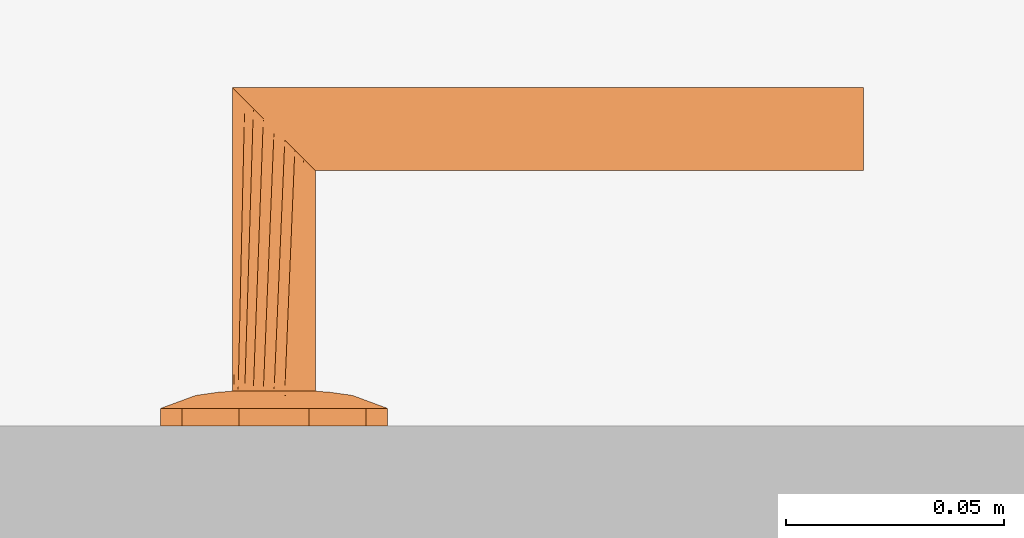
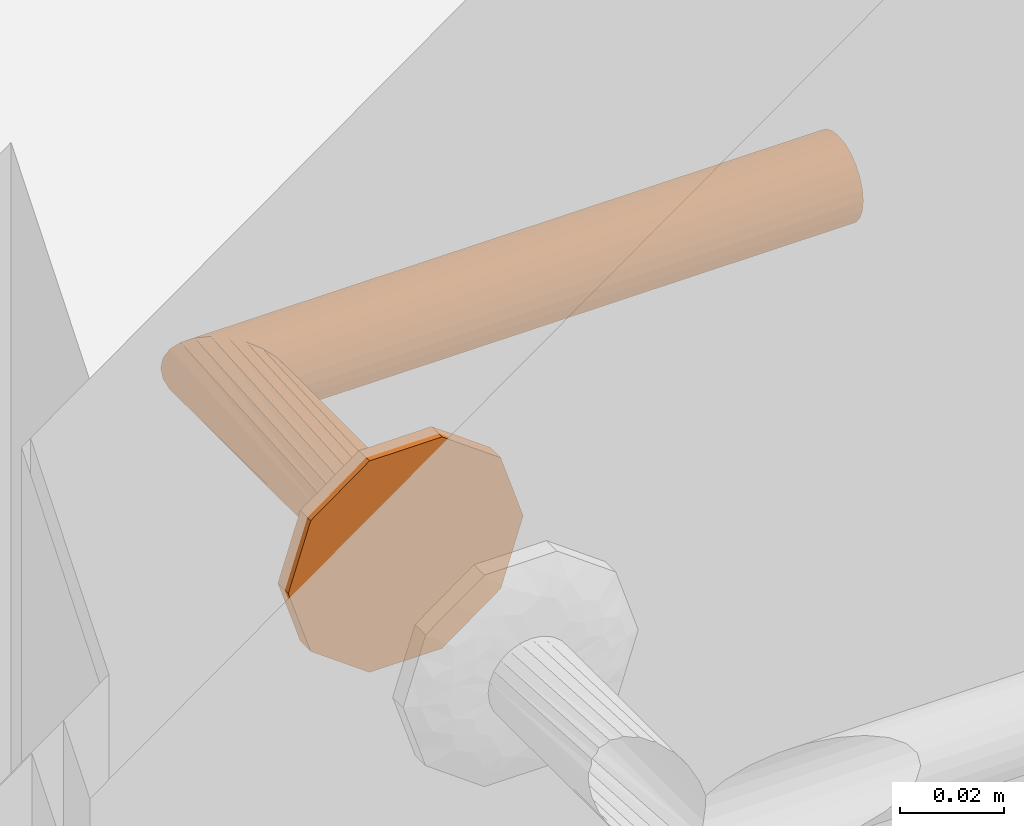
# One storey, part 54 of 55: 1 proxy.
"""IFC2X3 building model written with IfcOpenShell, lengths in millimetres."""

from ifc_helpers import new_model, entity, si_unit, converted_unit, direction, frame, origin, place, context, subcontext, project, spatial, faceted_brep, source, transform, mapped, material, type_object, type_shapes, element, save


model = new_model("IFC2X3")

# Units and contexts
model_context = context("Model", 3, precision=0.01, world=origin(), true_north=direction((6.123233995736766e-17, 1.0)))
plan_context = context("Plan", 3, precision=0.01, world=origin(), true_north=direction((6.123233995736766e-17, 1.0)))
body_context = subcontext(model_context, "Body", "Model", "MODEL_VIEW")
ifc_project = project(units=[si_unit("LENGTHUNIT", "METRE", prefix="MILLI"), converted_unit("PLANEANGLEUNIT", "DEGREE", entity("IfcPlaneAngleMeasure", 0.017453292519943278), si_unit("PLANEANGLEUNIT", "RADIAN"), dimensions=[0, 0, 0, 0, 0, 0, 0]), si_unit("AREAUNIT", "SQUARE_METRE")], contexts=[model_context, plan_context])

# Site, building, storey
site_placement = place(None, origin())
site = spatial("IfcSite", under=ifc_project, at=site_placement, Name="Default", CompositionType="ELEMENT")
building_placement = place(site_placement, origin())
building = spatial("IfcBuilding", under=site, at=building_placement, CompositionType="ELEMENT")
storey_placement = place(building_placement, origin())
storey = spatial("IfcBuildingStorey", under=building, at=storey_placement, Name="1K", CompositionType="ELEMENT", Elevation=0.0)

# Proxy
ifc_material = material(Name="<Unnamed>")
building_element_proxy_type = type_object("IfcBuildingElementProxyType", Name="Door-handle_Lever_ABLOY_INOXI_3-19ss-002_RT:Default", PredefinedType="NOTDEFINED", material=ifc_material)
shared_shape = source(origin(), body_context, "Body", "Brep", [
    faceted_brep([(0.0, 0.0, 0.0), (21.034441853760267, -15.282416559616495, 0.0), (14.534441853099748, -20.00494299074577, 0.0), (8.034441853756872, -24.72746942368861, 0.0), (0.0, -24.72746942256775, 0.0), (23.51722092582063, -7.6412082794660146, 0.0), (26.0, 0.0, 0.0), (-8.034441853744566, -24.727469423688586, 0.0), (-14.534441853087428, -20.00494299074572, 0.0), (-21.03444185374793, -15.282416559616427, 0.0), (-23.517220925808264, -7.641208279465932, 0.0), (-26.0, 0.0, 0.0), (-23.517220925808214, 7.641208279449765, 0.0), (23.517220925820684, 7.641208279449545, 0.0), (21.034441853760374, 15.282416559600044, 0.0), (14.53444185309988, 20.00494299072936, 0.0), (8.034441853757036, 24.72746942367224, 0.0), (-21.034441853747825, 15.282416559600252, 0.0), (-14.53444185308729, 20.004942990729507, 0.0), (-8.0344418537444, 24.72746942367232, 0.0), (0.0, 24.72746942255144, 0.0), (0.0, 0.0, 8.0), (4.7500000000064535, -8.227241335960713, 8.0), (5.937500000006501, -6.170431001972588, 8.0), (7.125000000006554, -4.113620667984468, 8.0), (8.312500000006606, -2.0568103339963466, 8.0), (9.500000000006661, 0.0, 8.0), (8.312500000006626, 2.056810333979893, 8.0), (2.3750000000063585, -8.227241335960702, 8.0), (0.0, -8.227241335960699, 8.0), (-2.3749999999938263, -8.227241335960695, 8.0), (-4.749999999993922, -8.227241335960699, 8.0), (-5.937499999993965, -6.170431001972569, 8.0), (-7.124999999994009, -4.113620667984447, 8.0), (-8.312499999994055, -2.056810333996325, 8.0), (-9.499999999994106, 0.0, 8.0), (7.125000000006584, 4.113620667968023, 8.0), (5.937500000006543, 6.170431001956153, 8.0), (4.750000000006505, 8.227241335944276, 8.0), (2.3750000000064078, 8.22724133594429, 8.0), (-8.31249999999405, 2.0568103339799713, 8.0), (-7.12499999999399, 4.113620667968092, 8.0), (-5.9374999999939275, 6.170431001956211, 8.0), (-4.74999999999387, 8.227241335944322, 8.0), (0.0, 8.227241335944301, 8.0), (-2.374999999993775, 8.227241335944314, 8.0), (-22.488765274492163, -10.806469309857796, 4.030771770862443), (-16.663919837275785, -7.932665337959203, 6.877259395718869), (-20.643071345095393, -6.292822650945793, 5.929480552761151), (-12.50457926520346, -5.179566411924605, 7.774932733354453), (-16.764060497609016, -3.820257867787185, 7.1747985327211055), (-9.071726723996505, -10.311606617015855, 7.7520782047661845), (-11.963426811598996, -8.625290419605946, 7.618343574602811), (-11.979136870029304, -13.678312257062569, 6.945778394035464), (5.7585542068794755, -20.96753300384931, 5.871476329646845), (0.0, -24.72746942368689, 4.030771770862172), (8.03444185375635, -24.727469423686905, 4.030771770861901), (16.66391982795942, -7.932665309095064, 6.877259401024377), (22.488765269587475, -10.806469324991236, 4.03077177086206), (20.64307133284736, -6.29282258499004, 5.929480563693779), (14.534441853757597, -20.004942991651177, 4.030771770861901), (9.499431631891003, -18.64368355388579, 6.154325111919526), (-15.783149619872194, -11.991003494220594, 6.50080018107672), (-21.034441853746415, -15.282416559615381, 4.030771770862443), (-14.53444185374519, -20.00494299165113, 4.030771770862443), (-23.012042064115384, 0.0, 5.135401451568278), (-23.943088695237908, -6.330522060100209, 4.030771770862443), (11.96342678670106, -8.62529049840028, 7.618343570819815), (12.504579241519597, -5.179566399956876, 7.774932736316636), (16.764060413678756, -3.8202578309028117, 7.17479855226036), (15.783149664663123, -11.991003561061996, 6.50080015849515), (17.985351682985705, 0.0, 6.993737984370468), (23.012042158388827, 0.0, 5.135401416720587), (8.661516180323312, -10.478936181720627, 7.768126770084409), (-8.03444185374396, -24.727469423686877, 4.030771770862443), (-3.3573143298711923, -21.197247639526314, 5.971427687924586), (-9.941915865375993, -17.061976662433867, 6.522757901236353), (-5.973257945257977, -16.430139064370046, 7.110979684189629), (-7.711266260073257, -12.760344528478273, 7.594456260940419), (11.979136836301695, -13.678312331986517, 6.945778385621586), (7.511307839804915, -13.358932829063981, 7.529187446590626), (5.953298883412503, -16.50608604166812, 7.096344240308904), (-1.5654593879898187, -15.307443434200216, 7.519134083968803), (-7.784980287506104, -20.476295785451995, 5.812837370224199), (2.8135289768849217, -17.76392260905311, 6.993737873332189), (-17.98535168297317, 0.0, 6.993737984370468), (-26.0, 0.0, 4.030771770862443), (-23.51722092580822, -7.641208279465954, 4.030771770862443), (23.943088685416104, -6.33052209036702, 4.030771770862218), (24.308823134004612, -5.204907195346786, 4.030771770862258), (26.0, 0.0, 4.030771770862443), (21.03444185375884, -15.282416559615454, 4.030771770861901), (22.617646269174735, -10.40981439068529, 4.030771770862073), (22.488765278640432, 10.806469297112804, 4.030771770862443), (16.66391984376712, 7.932665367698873, 6.877259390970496), (20.643071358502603, 6.292822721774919, 5.929480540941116), (12.504579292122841, 5.179566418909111, 7.774932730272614), (16.764060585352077, 3.8202579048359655, 7.174798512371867), (9.07172672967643, 10.31160659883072, 7.752078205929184), (11.963426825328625, 8.62529034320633, 7.618343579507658), (11.979136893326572, 13.67831220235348, 6.9457784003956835), (-5.758554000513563, 20.96753314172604, 5.8714763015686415), (0.0, 24.72746942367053, 4.030771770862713), (-8.03444185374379, 24.72746942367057, 4.030771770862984), (-16.663919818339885, 7.932665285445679, 6.877259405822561), (-22.48876526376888, 10.806469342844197, 4.030771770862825), (-20.643071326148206, 6.2928225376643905, 5.929480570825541), (-14.534441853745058, 20.004942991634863, 4.030771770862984), (-9.499431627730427, 18.643683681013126, 6.154325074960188), (15.783149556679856, 11.991003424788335, 6.5008002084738), (21.03444185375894, 15.282416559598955, 4.030771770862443), (14.534441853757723, 20.004942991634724, 4.030771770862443), (23.943088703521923, 6.330522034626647, 4.030771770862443), (-11.96342675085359, 8.625290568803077, 7.618343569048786), (-12.504579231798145, 5.179566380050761, 7.77493273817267), (-16.764060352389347, 3.820257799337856, 7.174798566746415), (-15.78314967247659, 11.991003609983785, 6.500800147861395), (-8.661516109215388, 10.478936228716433, 7.768126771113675), (8.034441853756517, 24.727469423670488, 4.030771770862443), (3.3573144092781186, 21.197247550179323, 5.971427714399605), (9.941915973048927, 17.061976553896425, 6.522757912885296), (5.9732581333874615, 16.430139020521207, 7.110979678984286), (7.711266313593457, 12.760344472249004, 7.5944562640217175), (-11.979136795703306, 13.678312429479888, 6.945778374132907), (-7.511307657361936, 13.358932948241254, 7.5291874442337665), (-5.9532988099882, 16.50608628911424, 7.096344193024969), (1.5654596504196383, 15.3074431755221, 7.519134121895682), (7.784980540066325, 20.476295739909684, 5.812837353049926), (-2.81352881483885, 17.76392263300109, 6.993737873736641), (23.51722092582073, 7.6412082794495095, 4.030771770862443), (-23.94308867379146, 6.330522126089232, 4.030771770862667), (-24.308823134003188, 5.20490719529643, 4.030771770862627), (-21.034441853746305, 15.282416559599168, 4.030771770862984), (-22.617646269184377, 10.409814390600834, 4.0307717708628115)], [[[0, 1, 2]], [[0, 2, 3]], [[0, 3, 4]], [[0, 5, 1]], [[0, 6, 5]], [[0, 4, 7]], [[0, 7, 8]], [[0, 8, 9]], [[0, 9, 10]], [[0, 10, 11]], [[0, 11, 12]], [[0, 13, 6]], [[0, 14, 13]], [[0, 15, 14]], [[0, 16, 15]], [[0, 12, 17]], [[0, 17, 18]], [[0, 18, 19]], [[0, 19, 20]], [[0, 20, 16]], [[21, 22, 23]], [[21, 23, 24]], [[21, 24, 25]], [[21, 25, 26]], [[21, 26, 27]], [[21, 28, 22]], [[21, 29, 28]], [[21, 30, 29]], [[21, 31, 30]], [[21, 32, 31]], [[21, 33, 32]], [[21, 34, 33]], [[21, 35, 34]], [[21, 27, 36]], [[21, 36, 37]], [[21, 37, 38]], [[21, 38, 39]], [[21, 40, 35]], [[21, 41, 40]], [[21, 42, 41]], [[21, 43, 42]], [[21, 39, 44]], [[21, 44, 45]], [[21, 45, 43]], [[46, 47, 48]], [[47, 49, 50]], [[49, 33, 34]], [[51, 52, 53]], [[49, 52, 33]], [[48, 47, 50]], [[54, 55, 56]], [[57, 58, 59]], [[56, 60, 61]], [[62, 63, 64]], [[65, 66, 48]], [[67, 57, 68]], [[68, 69, 25]], [[57, 67, 70]], [[69, 26, 25]], [[62, 53, 52]], [[71, 69, 72]], [[67, 23, 73]], [[74, 55, 75]], [[76, 77, 78]], [[79, 60, 70]], [[69, 59, 72]], [[80, 81, 61]], [[77, 30, 78]], [[82, 30, 77]], [[28, 80, 22]], [[77, 83, 75]], [[75, 82, 77]], [[55, 84, 75]], [[85, 50, 35]], [[24, 68, 25]], [[82, 84, 29]], [[84, 82, 75]], [[31, 78, 30]], [[82, 29, 30]], [[34, 35, 50]], [[52, 49, 47]], [[62, 52, 47]], [[34, 50, 49]], [[53, 78, 51]], [[32, 33, 52]], [[85, 65, 50]], [[66, 65, 86]], [[67, 68, 24]], [[77, 76, 83]], [[65, 48, 50]], [[63, 62, 46]], [[48, 66, 87, 46]], [[62, 47, 46]], [[69, 68, 57]], [[80, 73, 22]], [[70, 67, 79]], [[67, 24, 23]], [[72, 88, 89, 90]], [[69, 71, 26]], [[59, 69, 57]], [[61, 60, 79]], [[62, 64, 53]], [[91, 58, 70]], [[72, 59, 88]], [[57, 70, 58]], [[59, 58, 92]], [[80, 61, 79]], [[91, 70, 60]], [[61, 81, 54]], [[73, 80, 79]], [[28, 84, 81]], [[67, 73, 79]], [[29, 84, 28]], [[22, 73, 23]], [[51, 31, 32]], [[76, 78, 53]], [[53, 64, 76]], [[83, 64, 74]], [[64, 83, 76]], [[75, 83, 74]], [[31, 51, 78]], [[52, 51, 32]], [[28, 81, 80]], [[54, 81, 84]], [[55, 54, 84]], [[61, 54, 56]], [[93, 94, 95]], [[94, 96, 97]], [[96, 36, 27]], [[98, 99, 100]], [[96, 99, 36]], [[95, 94, 97]], [[101, 102, 103]], [[104, 105, 106]], [[103, 107, 108]], [[109, 110, 111]], [[72, 112, 95]], [[113, 104, 114]], [[114, 115, 40]], [[104, 113, 116]], [[115, 35, 40]], [[109, 100, 99]], [[85, 115, 65]], [[113, 42, 117]], [[118, 102, 119]], [[120, 121, 122]], [[123, 107, 116]], [[115, 106, 65]], [[124, 125, 108]], [[121, 39, 122]], [[126, 39, 121]], [[45, 124, 43]], [[121, 127, 119]], [[119, 126, 121]], [[102, 128, 119]], [[71, 97, 26]], [[41, 114, 40]], [[126, 128, 44]], [[128, 126, 119]], [[38, 122, 39]], [[126, 44, 39]], [[27, 26, 97]], [[99, 96, 94]], [[109, 99, 94]], [[27, 97, 96]], [[100, 122, 98]], [[37, 36, 99]], [[71, 72, 97]], [[112, 72, 90]], [[113, 114, 41]], [[121, 120, 127]], [[72, 95, 97]], [[110, 109, 93]], [[95, 112, 129, 93]], [[109, 94, 93]], [[115, 114, 104]], [[124, 117, 43]], [[116, 113, 123]], [[113, 41, 42]], [[65, 130, 131, 86]], [[115, 85, 35]], [[106, 115, 104]], [[108, 107, 123]], [[109, 111, 100]], [[132, 105, 116]], [[65, 106, 130]], [[104, 116, 105]], [[106, 105, 133]], [[124, 108, 123]], [[132, 116, 107]], [[108, 125, 101]], [[117, 124, 123]], [[45, 128, 125]], [[113, 117, 123]], [[44, 128, 45]], [[43, 117, 42]], [[98, 38, 37]], [[120, 122, 100]], [[100, 111, 120]], [[127, 111, 118]], [[111, 127, 120]], [[119, 127, 118]], [[38, 98, 122]], [[99, 98, 37]], [[45, 125, 124]], [[101, 125, 128]], [[102, 101, 128]], [[108, 101, 103]], [[7, 74, 64, 63, 9, 8]], [[10, 9, 63, 46, 87, 66, 86, 11]], [[6, 90, 89, 88, 92, 1, 5]], [[1, 58, 91]], [[74, 7, 4, 3, 56, 55]], [[60, 56, 3, 2, 1, 91]], [[1, 92, 58]], [[14, 110, 93, 129, 112, 90, 6, 13]], [[111, 110, 14, 15, 16, 118]], [[11, 86, 131, 130, 133, 17, 12]], [[17, 105, 132]], [[118, 16, 20, 19, 103, 102]], [[107, 103, 19, 18, 17, 132]], [[17, 133, 105]], [[59, 92, 88]], [[106, 133, 130]]]),
    faceted_brep([(4.7499999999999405, -8.22724133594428, 8.0), (2.4587809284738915, -9.176295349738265, 8.0), (0.0, -9.499999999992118, 8.0), (-2.4587809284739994, -9.176295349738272, 8.0), (-4.7500000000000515, -8.227241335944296, 8.0), (-6.717514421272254, -6.717514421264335, 8.0), (-8.227241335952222, -4.74999999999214, 8.0), (-9.176295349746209, -2.4587809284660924, 8.0), (-9.500000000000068, 0.0, 8.0), (-9.176295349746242, 2.458780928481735, 8.0), (-8.227241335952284, 4.750000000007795, 8.0), (-6.717514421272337, 6.717514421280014, 8.0), (-4.750000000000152, 8.227241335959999, 8.0), (-2.4587809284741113, 9.176295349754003, 8.0), (0.0, 9.500000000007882, 8.0), (2.4587809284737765, 9.176295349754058, 8.0), (4.7499999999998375, 8.227241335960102, 8.0), (6.717514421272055, 6.717514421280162, 8.0), (8.22724133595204, 4.75000000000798, 8.0), (9.17629534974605, 2.458780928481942, 8.0), (9.499999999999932, 0.0, 8.0), (9.17629534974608, -2.458780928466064, 8.0), (8.227241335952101, -4.749999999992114, 8.0), (6.717514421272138, -6.7175144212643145, 8.0), (-8.227241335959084, 4.7499999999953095, 59.772758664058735), (-6.717514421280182, 6.7175144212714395, 61.282485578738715), (-9.176295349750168, 2.458780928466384, 58.82370465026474), (-4.750000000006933, 8.227241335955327, 63.25000000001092), (-2.4587809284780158, 9.176295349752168, 65.54121907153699), (-9.500000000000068, 0.0, 58.50000000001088), (0.0, 9.50000000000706, 68.0), (4.750000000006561, 8.227241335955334, 72.75000000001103), (2.4587809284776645, 9.17629534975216, 70.45878092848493), (6.717514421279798, 6.7175144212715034, 74.71751442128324), (8.22724133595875, 4.749999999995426, 76.22724133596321), (9.17629534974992, 2.458780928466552, 77.17629534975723), (9.499999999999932, 0.0, 77.50000000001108), (9.176295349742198, -2.4587809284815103, 77.1762953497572), (8.227241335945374, -4.750000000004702, 76.22724133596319), (6.7175144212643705, -6.717514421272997, 74.7175144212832), (4.749999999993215, -8.227241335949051, 72.75000000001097), (2.4587809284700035, -9.17629534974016, 70.45878092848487), (0.0, -9.49999999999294, 68.0), (-2.4587809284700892, -9.176295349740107, 65.54121907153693), (-4.749999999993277, -8.227241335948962, 63.250000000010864), (-6.717514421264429, -6.717514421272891, 61.282485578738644), (-9.176295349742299, -2.458780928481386, 58.8237046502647), (-8.227241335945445, -4.750000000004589, 59.77275866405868), (-135.0, -9.176295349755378, 70.4587809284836), (-135.0, -8.227241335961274, 72.75000000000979), (-135.0, -6.717514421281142, 74.71751442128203), (-135.0, -4.750000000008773, 76.22724133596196), (-135.0, -2.4587809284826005, 77.17629534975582), (-135.0, 0.0, 77.5000000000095), (-135.0, 2.4587809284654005, 77.17629534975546), (-135.0, 4.749999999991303, 76.22724133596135), (-135.0, 6.717514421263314, 74.71751442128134), (-135.0, 8.227241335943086, 72.75000000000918), (-135.0, 9.17629534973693, 70.45878092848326), (-135.0, 9.499999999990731, 68.0), (-135.0, 9.17629534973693, 65.54121907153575), (-135.0, 8.227241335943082, 63.250000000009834), (-135.0, 6.717514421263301, 61.28248557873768), (-135.0, 4.749999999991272, 59.772758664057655), (-135.0, 2.458780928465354, 58.823704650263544), (-135.0, 0.0, 58.50000000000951), (-135.0, -2.458780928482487, 58.82370465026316), (-135.0, -4.750000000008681, 59.772758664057), (-135.0, -6.7175144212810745, 61.28248557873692), (-135.0, -8.227241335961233, 63.25000000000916), (-135.0, -9.176295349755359, 65.54121907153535), (-135.0, -9.500000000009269, 68.0)], [[[0, 1, 2, 3, 4, 5, 6, 7, 8, 9, 10, 11, 12, 13, 14, 15, 16, 17, 18, 19, 20, 21, 22, 23]], [[24, 25, 11, 10]], [[26, 24, 10, 9]], [[14, 27, 28]], [[13, 27, 14]], [[25, 27, 13]], [[29, 26, 9, 8]], [[12, 11, 25]], [[25, 13, 12]], [[28, 30, 15]], [[31, 17, 32]], [[33, 18, 31]], [[19, 34, 35]], [[33, 34, 19]], [[20, 19, 35, 36]], [[16, 15, 30]], [[14, 28, 15]], [[19, 18, 33]], [[17, 31, 18]], [[17, 16, 32]], [[30, 32, 16]], [[20, 36, 37, 21]], [[38, 21, 37]], [[22, 39, 40]], [[38, 39, 21]], [[23, 40, 41]], [[39, 22, 21]], [[1, 42, 43]], [[42, 1, 0]], [[23, 41, 0]], [[23, 22, 40]], [[41, 42, 0]], [[44, 45, 3]], [[43, 44, 2]], [[46, 29, 8, 7]], [[47, 46, 7, 6]], [[45, 47, 6, 5]], [[45, 4, 3]], [[3, 2, 44]], [[5, 4, 45]], [[43, 2, 1]], [[48, 49, 50, 51, 52, 53, 54, 55, 56, 57, 58, 59, 60, 61, 62, 63, 64, 65, 66, 67, 68, 69, 70, 71]], [[64, 63, 24, 26]], [[65, 64, 26, 29]], [[61, 60, 28, 27]], [[62, 61, 27, 25]], [[63, 62, 25, 24]], [[59, 30, 28, 60]], [[57, 56, 33, 31]], [[58, 57, 31, 32]], [[54, 53, 36, 35]], [[55, 54, 35, 34]], [[56, 55, 34, 33]], [[32, 30, 59, 58]], [[52, 51, 38, 37]], [[53, 52, 37, 36]], [[49, 48, 41, 40]], [[50, 49, 40, 39]], [[51, 50, 39, 38]], [[42, 41, 48, 71]], [[69, 68, 45, 44]], [[70, 69, 44, 43]], [[66, 65, 29, 46]], [[67, 66, 46, 47]], [[68, 67, 47, 45]], [[42, 71, 70, 43]]]),
])
type_shapes(building_element_proxy_type, [shared_shape])
proxy_placement = place(storey_placement, frame((15960.0, 4129.999959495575, 1000.0), z_axis=(0.0, 1.0, 0.0), x_axis=(-1.0, 0.0, 0.0)))
element("IfcBuildingElementProxy", 1, at=proxy_placement, inside=storey, type_object=building_element_proxy_type, material=ifc_material, Name="Door-handle_Lever_ABLOY_INOXI_3-19ss-002_RT:Default", ObjectType="Door-handle_Lever_ABLOY_INOXI_3-19ss-002_RT:Default", context=body_context, shape_type="MappedRepresentation", body=[
    mapped(shared_shape, transform((0.0, 0.0, 0.0), scale=1.0)),
])

save(model, "model.ifc")
